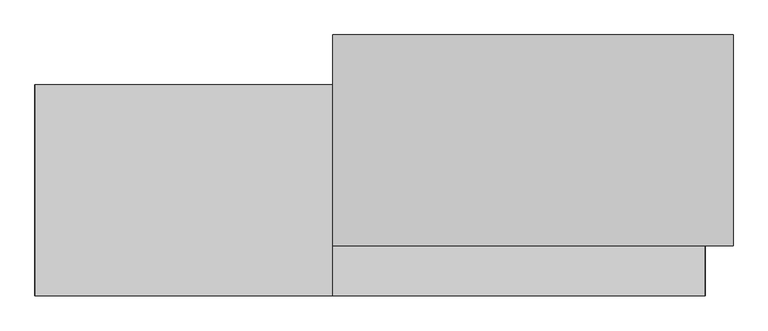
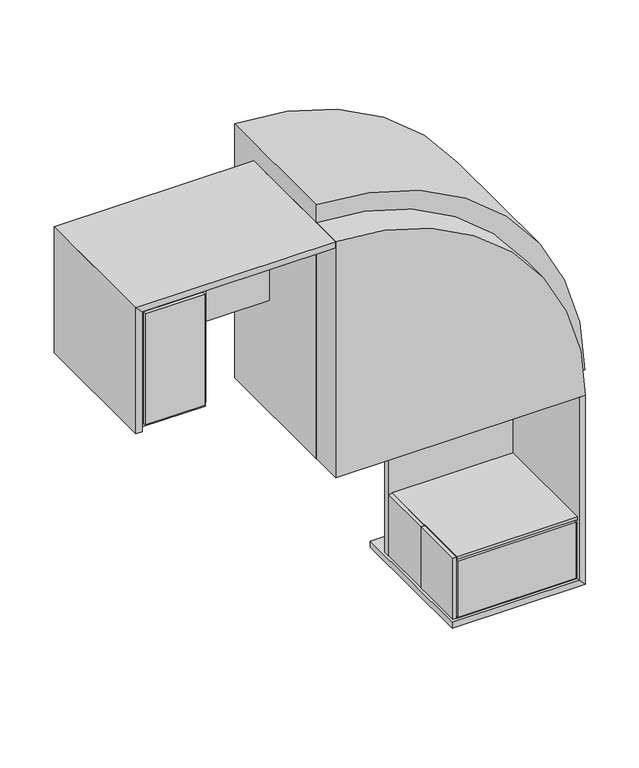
"""IFC4 building model written with IfcOpenShell, lengths in millimetres: proxy geometry, SALUTE^RECEPT 6_QUARTER ROUND-PARTS SOLID."""

from ifc_helpers import new_model, si_unit, point, frame, frame_2d, origin, place, context, project, spatial, polyline, circle_curve, trimmed, segment, composite_curve, outline, extrude, source, transform, mapped, element, save


def generic_models_39aa693d(model_context):
    return source(origin(), model_context, "Body", "SweptSolid", [
        extrude(outline(polyline([(-2705.1, 1930.4), (-2743.2, 1930.4), (-2743.2, 2743.2), (-2705.1, 2705.1), (-2705.1, 1930.4)])), frame((0.0, 0.0, 0.0), z_axis=(0.0, 1.0, 0.0), x_axis=(0.0, 0.0, 1.0)), (0.0, 0.0, 1.0), 863.6),
        extrude(outline(polyline([(435.76875, 19.05), (40.48125, 19.05), (40.48125, 352.425), (435.76875, 352.425), (435.76875, 19.05)])), frame((0.0, 0.0, -796.925), z_axis=(0.0, 0.0, 1.0), x_axis=(1.0, 0.0, 0.0)), (0.0, 0.0, 1.0), 19.05),
        extrude(outline(polyline([(435.76875, 354.80625), (40.48125, 354.80625), (40.48125, 524.271875), (435.76875, 524.271875), (435.76875, 354.80625)])), frame((0.0, 0.0, -796.925), z_axis=(0.0, 0.0, 1.0), x_axis=(1.0, 0.0, 0.0)), (0.0, 0.0, 1.0), 19.05),
        extrude(outline(polyline([(2705.1, 698.5), (2705.1, 19.05), (1968.5, 19.05), (1968.5, 698.5), (2705.1, 698.5)])), frame((0.0, 0.0, -2324.1), z_axis=(0.0, 0.0, 1.0), x_axis=(1.0, 0.0, 0.0)), (0.0, 0.0, 1.0), 19.05),
        extrude(outline(composite_curve([segment(polyline([(-1524.0, 1219.2), (-1524.0, 2857.5)]), True, "CONTINUOUS"), segment(trimmed(circle_curve(frame_2d((-1524.0, 1219.2)), 1638.3), [point((-1524.0, 2857.5))], [point((114.3, 1219.2))], False, "CARTESIAN"), True, "CONTINUOUS"), segment(polyline([(114.3, 1219.2), (-1524.0, 1219.2)]), True, "CONTINUOUS")], self_intersect=False)), frame((0.0, 203.2, 0.0), z_axis=(0.0, 1.0, 0.0), x_axis=(0.0, 0.0, 1.0)), (0.0, 0.0, 1.0), 863.6),
        extrude(outline(polyline([(38.1, 698.5), (57.15, 698.5), (57.15, 19.05), (38.1, 19.05), (38.1, 698.5)])), frame((0.0, 0.0, -774.7), z_axis=(0.0, 0.0, 1.0), x_axis=(1.0, 0.0, 0.0)), (0.0, 0.0, 1.0), 736.6),
        extrude(outline(polyline([(1968.5, 679.45), (1968.5, 698.5), (2686.05, 698.5), (2686.05, 679.45), (1968.5, 679.45)])), frame((0.0, 0.0, -2686.05), z_axis=(0.0, 0.0, 1.0), x_axis=(1.0, 0.0, 0.0)), (0.0, 0.0, 1.0), 361.95),
        extrude(outline(composite_curve([segment(polyline([(0.0, 1219.2), (-1524.0, 1219.2), (-1524.0, 2743.2)]), True, "CONTINUOUS"), segment(trimmed(circle_curve(frame_2d((-1524.0, 1219.2)), 1524.0), [point((-1524.0, 2743.2))], [point((0.0, 1219.2))], False, "CARTESIAN"), True, "CONTINUOUS")], self_intersect=False)), frame((0.0, 0.0, 0.0), z_axis=(0.0, 1.0, 0.0), x_axis=(0.0, 0.0, 1.0)), (0.0, 0.0, 1.0), 698.5),
        extrude(outline(polyline([(1965.325, 352.425), (1965.325, 19.05), (1946.275, 19.05), (1946.275, 352.425), (1965.325, 352.425)])), frame((0.0, 0.0, -2702.71875), z_axis=(0.0, 0.0, 1.0), x_axis=(1.0, 0.0, 0.0)), (0.0, 0.0, 1.0), 395.2875),
        extrude(outline(composite_curve([segment(polyline([(0.0, 1219.2), (-1524.0, 1219.2), (-1524.0, 2743.2)]), True, "CONTINUOUS"), segment(trimmed(circle_curve(frame_2d((-1524.0, 1219.2)), 1524.0), [point((-1524.0, 2743.2))], [point((0.0, 1219.2))], False, "CARTESIAN"), True, "CONTINUOUS")], self_intersect=False)), frame((0.0, 698.5, 0.0), z_axis=(0.0, 1.0, 0.0), x_axis=(0.0, 0.0, 1.0)), (0.0, 0.0, 1.0), 38.1),
        extrude(outline(polyline([(1943.1, 736.6), (2705.1, 736.6), (2705.1, 698.5), (1943.1, 698.5), (1943.1, 736.6)])), frame((0.0, 0.0, -2705.1), z_axis=(0.0, 0.0, 1.0), x_axis=(1.0, 0.0, 0.0)), (0.0, 0.0, 1.0), 1181.1),
        extrude(outline(polyline([(57.15, 698.5), (419.1, 698.5), (419.1, 679.45), (57.15, 679.45), (57.15, 698.5)])), frame((0.0, 0.0, -774.7), z_axis=(0.0, 0.0, 1.0), x_axis=(1.0, 0.0, 0.0)), (0.0, 0.0, 1.0), 717.55),
        extrude(outline(polyline([(1968.5, 0.0), (1968.5, 38.1), (2686.05, 38.1), (2686.05, 0.0), (1968.5, 0.0)])), frame((0.0, 0.0, -2686.05), z_axis=(0.0, 0.0, 1.0), x_axis=(1.0, 0.0, 0.0)), (0.0, 0.0, 1.0), 361.95),
        extrude(outline(polyline([(38.1, 736.6), (1219.2, 736.6), (1219.2, 698.5), (38.1, 698.5), (38.1, 736.6)])), frame((0.0, 0.0, -800.1), z_axis=(0.0, 0.0, 1.0), x_axis=(1.0, 0.0, 0.0)), (0.0, 0.0, 1.0), 762.0),
        extrude(outline(polyline([(435.76875, 526.653125), (40.48125, 526.653125), (40.48125, 696.11875), (435.76875, 696.11875), (435.76875, 526.653125)])), frame((0.0, 0.0, -796.925), z_axis=(0.0, 0.0, 1.0), x_axis=(1.0, 0.0, 0.0)), (0.0, 0.0, 1.0), 19.05),
        extrude(outline(polyline([(-38.1, 38.1), (-38.1, 1219.2), (0.0, 1219.2), (0.0, 0.0), (-38.1, 38.1)])), frame((0.0, 0.0, 0.0), z_axis=(0.0, 1.0, 0.0), x_axis=(0.0, 0.0, 1.0)), (0.0, 0.0, 1.0), 863.6),
        extrude(outline(polyline([(-1524.0, 2705.1), (-2705.1, 2705.1), (-2743.2, 2743.2), (-1524.0, 2743.2), (-1524.0, 2705.1)])), frame((0.0, 0.0, 0.0), z_axis=(0.0, 1.0, 0.0), x_axis=(0.0, 0.0, 1.0)), (0.0, 0.0, 1.0), 863.6),
        extrude(outline(polyline([(419.1, 38.1), (419.1, 0.0), (57.15, 0.0), (57.15, 38.1), (419.1, 38.1)])), frame((0.0, 0.0, -774.7), z_axis=(0.0, 0.0, 1.0), x_axis=(1.0, 0.0, 0.0)), (0.0, 0.0, 1.0), 717.55),
        extrude(outline(polyline([(57.15, 19.05), (57.15, 698.5), (419.1, 698.5), (419.1, 19.05), (57.15, 19.05)])), frame((0.0, 0.0, -57.15), z_axis=(0.0, 0.0, 1.0), x_axis=(1.0, 0.0, 0.0)), (0.0, 0.0, 1.0), 19.05),
        extrude(outline(polyline([(-812.8, 38.1), (-38.1, 38.1), (0.0, 0.0), (-812.8, 0.0), (-812.8, 38.1)])), frame((0.0, 0.0, 0.0), z_axis=(0.0, 1.0, 0.0), x_axis=(0.0, 0.0, 1.0)), (0.0, 0.0, 1.0), 863.6),
        extrude(outline(polyline([(2686.05, 19.05), (2686.05, 698.5), (2705.1, 698.5), (2705.1, 19.05), (2686.05, 19.05)])), frame((0.0, 0.0, -2686.05), z_axis=(0.0, 0.0, 1.0), x_axis=(1.0, 0.0, 0.0)), (0.0, 0.0, 1.0), 361.95),
        extrude(outline(polyline([(419.1, 19.05), (419.1, 698.5), (438.15, 698.5), (438.15, 19.05), (419.1, 19.05)])), frame((0.0, 0.0, -774.7), z_axis=(0.0, 0.0, 1.0), x_axis=(1.0, 0.0, 0.0)), (0.0, 0.0, 1.0), 736.6),
        extrude(outline(polyline([(2705.1, 698.5), (2705.1, 19.05), (1968.5, 19.05), (1968.5, 698.5), (2705.1, 698.5)])), frame((0.0, 0.0, -2705.1), z_axis=(0.0, 0.0, 1.0), x_axis=(1.0, 0.0, 0.0)), (0.0, 0.0, 1.0), 19.05),
        extrude(outline(polyline([(1965.325, 696.11875), (1965.325, 354.80625), (1946.275, 354.80625), (1946.275, 696.11875), (1965.325, 696.11875)])), frame((0.0, 0.0, -2702.71875), z_axis=(0.0, 0.0, 1.0), x_axis=(1.0, 0.0, 0.0)), (0.0, 0.0, 1.0), 395.2875),
    ])


if __name__ == "__main__":
    model = new_model("IFC4")
    model_context = context("Model", 3, world=origin())
    ifc_project = project(units=[si_unit("LENGTHUNIT", "METRE", prefix="MILLI")], contexts=[model_context])
    site = spatial("IfcSite", under=ifc_project)
    building = spatial("IfcBuilding", under=site)
    placement = place(None, origin())
    generic_models_shape = generic_models_39aa693d(model_context)
    element("IfcBuildingElementProxy", 1, Name="SALUTE^RECEPT 6_QUARTER ROUND-PARTS SOLID", ObjectType="SALUTE^RECEPT 6_QUARTER ROUND-PARTS SOLID", at=placement, inside=building, context=model_context, shape_type="MappedRepresentation", body=[
        mapped(generic_models_shape, transform((0.0, 0.0, 0.0), x_axis=(1.0, 0.0, 0.0), y_axis=(0.0, 1.0, 0.0), z_axis=(0.0, 0.0, 1.0))),
    ])
    save(model, "model.ifc")
